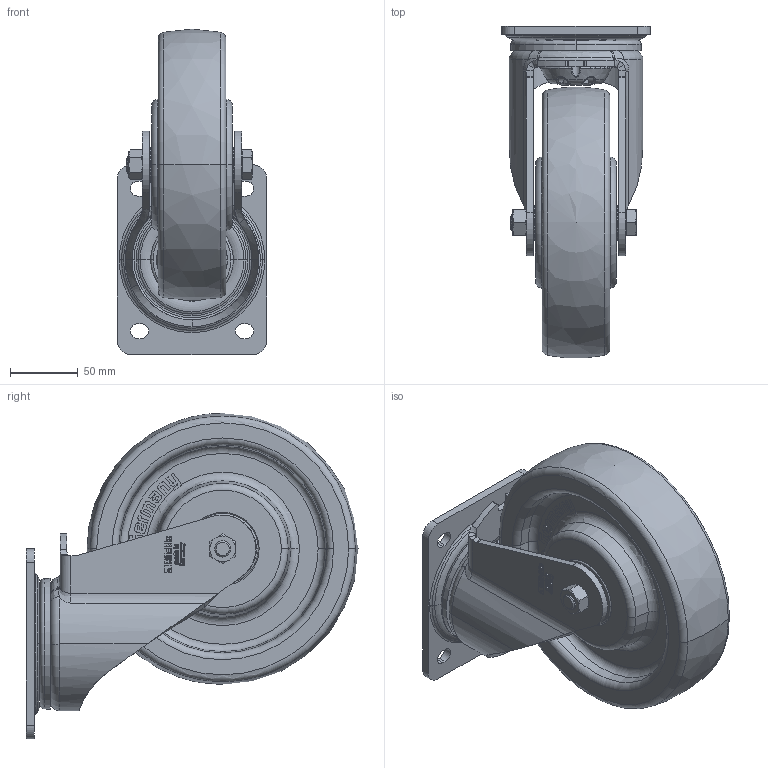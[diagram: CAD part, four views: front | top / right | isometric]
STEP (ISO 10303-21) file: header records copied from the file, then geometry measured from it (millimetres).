
FILE_DESCRIPTION (( 'STEP AP214' ), '1' );
FILE_NAME ('LH-SPO_200K_007088-214.step', '2022-01-05T09:52:32', ( '' ), ( '' ), 'SwSTEP 2.0', 'SolidWorks 2018', '' );
FILE_SCHEMA (( 'AUTOMOTIVE_DESIGN' ));
Length unit declared in the file: millimetre
Products named in the file (5): GH-LH_175-250_GH-LH-200x60-03_20x60; GH-LH-200x60-03_20x60_G16_3D; LH-SPO_200K_007088-214; SPO_3D_G16_SPO_200_20K_006023; SPO_200_20K_G16_3D
Assembly tree (4 placements, depth 3):
  LH-SPO_200K_007088-214
    SPO_3D_G16_SPO_200_20K_006023
      SPO_200_20K_G16_3D
    GH-LH_175-250_GH-LH-200x60-03_20x60
      GH-LH-200x60-03_20x60_G16_3D
Bounding box: 110 x 244.75 x 240 mm (x, y, z)
Volume: 1596382.4 mm3; surface area: 243079.9 mm2
Topology: 2 solids, 5 shells, 1812 faces, 4745 edges, 3086 vertices
Faces by surface type: plane 810, bspline 664, torus 141, cylinder 121, cone 74, sphere 2
Entity records: 65493 total; most frequent: CARTESIAN_POINT 24184, ORIENTED_EDGE 9472, DIRECTION 6207, EDGE_CURVE 4736, VERTEX_POINT 3083, VECTOR 2657, LINE 2657, EDGE_LOOP 1979
